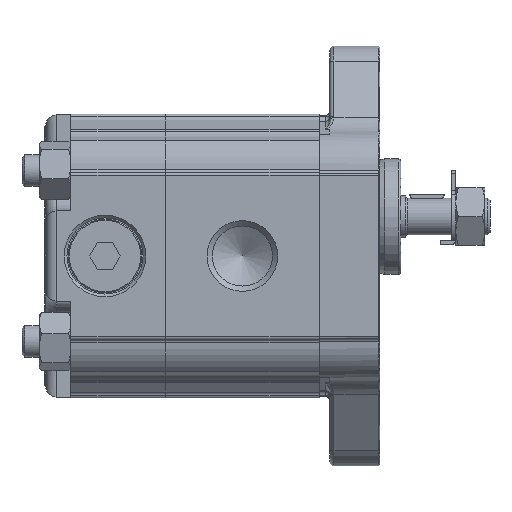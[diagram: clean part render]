
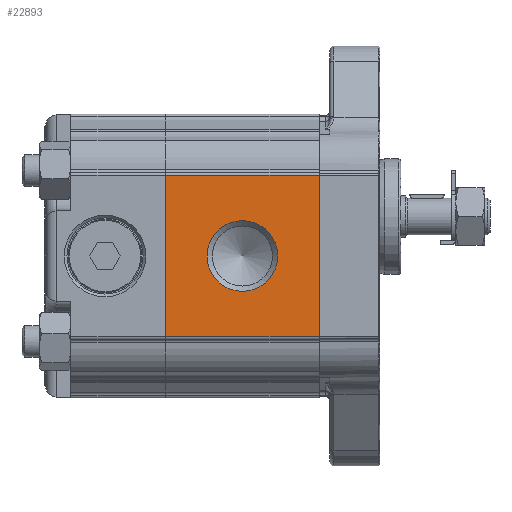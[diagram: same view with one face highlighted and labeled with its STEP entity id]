
A CAD part, left-side view. The second image highlights one B-rep face of the part: STEP entity #22893.
In plain terms, the highlighted planar face has unit normal (-1, 0, 0).
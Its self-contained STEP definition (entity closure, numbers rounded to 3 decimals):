
#1545=LINE('',#34010,#2674);
#1546=LINE('',#34014,#2675);
#1547=LINE('',#34016,#2676);
#1548=LINE('',#34018,#2677);
#2674=VECTOR('',#28045,1000.);
#2675=VECTOR('',#28050,1000.);
#2676=VECTOR('',#28051,1000.);
#2677=VECTOR('',#28052,1000.);
#5837=ORIENTED_EDGE('',*,*,#9193,.T.);
#5838=ORIENTED_EDGE('',*,*,#9194,.F.);
#5839=ORIENTED_EDGE('',*,*,#9192,.F.);
#5840=ORIENTED_EDGE('',*,*,#9195,.T.);
#5841=ORIENTED_EDGE('',*,*,#9196,.T.);
#9192=EDGE_CURVE('',#11058,#11057,#1545,.T.);
#9193=EDGE_CURVE('',#11059,#11059,#12272,.F.);
#9194=EDGE_CURVE('',#11057,#11060,#1546,.T.);
#9195=EDGE_CURVE('',#11058,#11061,#1547,.T.);
#9196=EDGE_CURVE('',#11061,#11060,#1548,.T.);
#11057=VERTEX_POINT('',#34007);
#11058=VERTEX_POINT('',#34009);
#11059=VERTEX_POINT('',#34013);
#11060=VERTEX_POINT('',#34015);
#11061=VERTEX_POINT('',#34017);
#12272=CIRCLE('',#24437,6.723);
#13284=EDGE_LOOP('',(#5837));
#13285=EDGE_LOOP('',(#5838,#5839,#5840,#5841));
#14494=FACE_BOUND('',#13284,.T.);
#14495=FACE_BOUND('',#13285,.T.);
#15284=PLANE('',#24436);
#22893=ADVANCED_FACE('',(#14494,#14495),#15284,.T.);
#24436=AXIS2_PLACEMENT_3D('',#34011,#28046,#28047);
#24437=AXIS2_PLACEMENT_3D('',#34012,#28048,#28049);
#28045=DIRECTION('',(0.,-1.,0.));
#28046=DIRECTION('',(-1.,0.,0.));
#28047=DIRECTION('',(0.,0.,1.));
#28048=DIRECTION('',(-1.,0.,0.));
#28049=DIRECTION('',(0.,0.,1.));
#28050=DIRECTION('',(0.,0.,-1.));
#28051=DIRECTION('',(0.,0.,-1.));
#28052=DIRECTION('',(0.,-1.,0.));
#34007=CARTESIAN_POINT('',(-25.,0.,15.418));
#34009=CARTESIAN_POINT('',(-25.,29.3,15.418));
#34010=CARTESIAN_POINT('',(-25.,29.3,15.418));
#34011=CARTESIAN_POINT('',(-25.,29.3,15.418));
#34012=CARTESIAN_POINT('',(-25.,14.65,0.));
#34013=CARTESIAN_POINT('',(-25.,14.65,6.723));
#34014=CARTESIAN_POINT('',(-25.,0.,15.418));
#34015=CARTESIAN_POINT('',(-25.,0.,-15.418));
#34016=CARTESIAN_POINT('',(-25.,29.3,15.418));
#34017=CARTESIAN_POINT('',(-25.,29.3,-15.418));
#34018=CARTESIAN_POINT('',(-25.,29.3,-15.418));
